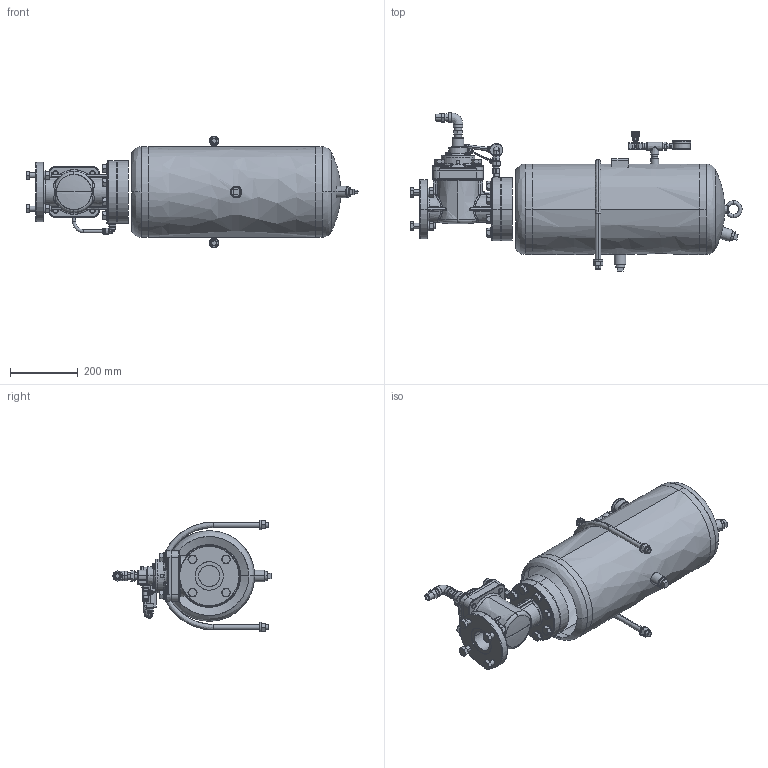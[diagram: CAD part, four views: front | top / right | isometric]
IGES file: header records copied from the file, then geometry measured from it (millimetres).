
Start section: SolidWorks IGES file using analytic representation for surfaces
Global section: file name: V:\WORK\08133\HP Defeature\blaster\EDB2.5-30A\IGS_STEP僼傽僀儖\EDB2.5-30A.IGS; native system: SolidWorks 2022; preprocessor: SolidWorks 2022; author: n-udagawa; date: 250409.115318; units: millimetre
Bounding box: 980.73 x 467.5 x 329.96 mm (x, y, z)
Surface area: 1021174.9 mm2 (no closed solid volume)
Topology: 0 solids, 0 shells, 1712 faces, 26335 edges, 26309 vertices
Faces by surface type: revolution 918, bspline 794
